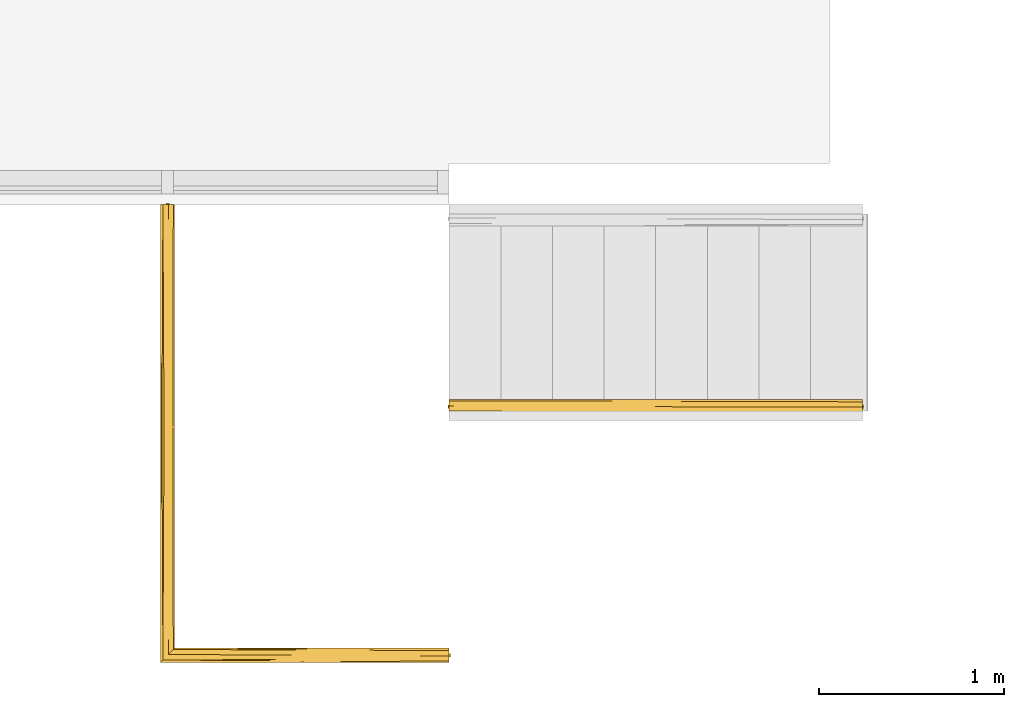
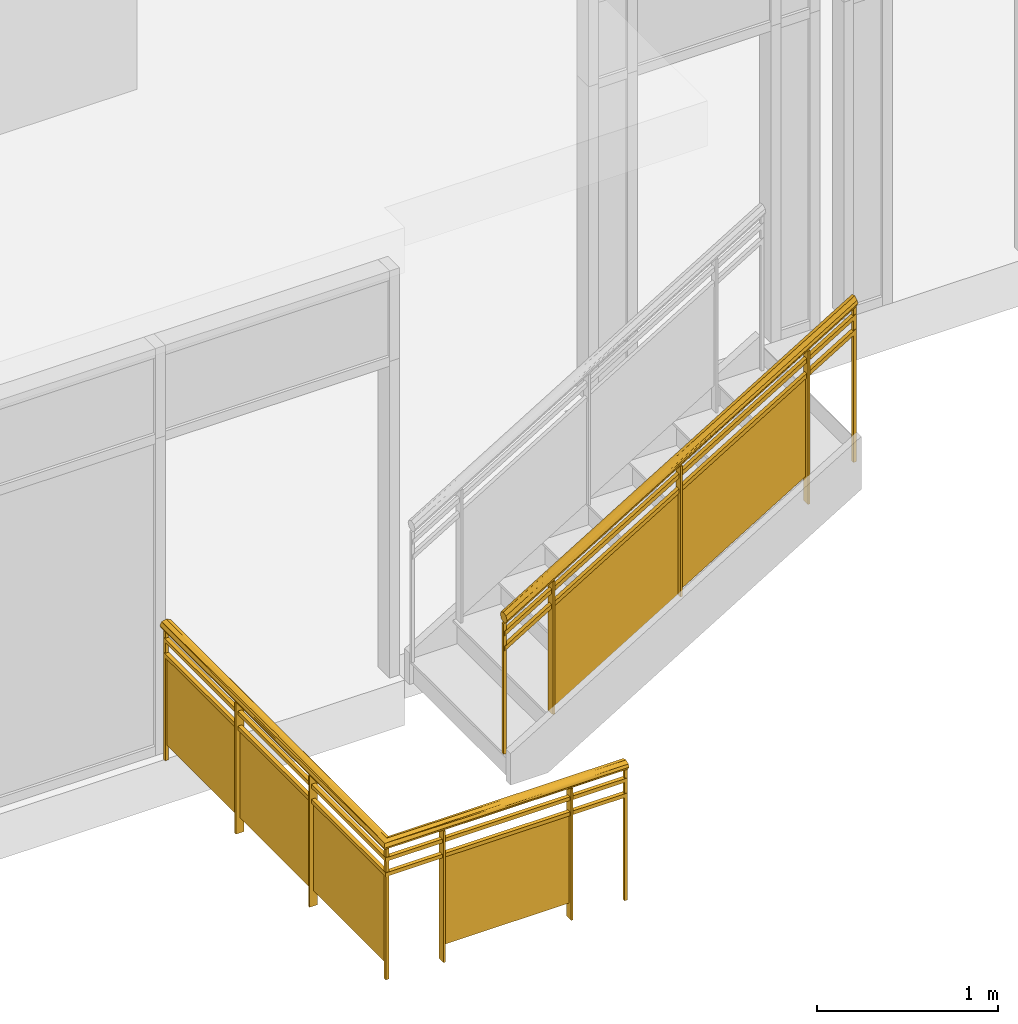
# One storey, part 8 of 11: 2 railings, 1 element without a shape of its own.
"""IFC2X3 building model written with IfcOpenShell, lengths in feet."""

from ifc_helpers import new_model, entity, si_unit, converted_unit, derived_unit, direction, frame, origin, place, context, subcontext, project, spatial, faceted_brep, material, material_list, element, aggregate, save


model = new_model("IFC2X3")

# Units and contexts
model_context = context("Model", 3, precision=0.0001, world=origin(), true_north=direction((6.12303176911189e-17, 1.0)))
body_context = subcontext(model_context, "Body", "Model", "MODEL_VIEW")
ifc_project = project(units=[converted_unit("LENGTHUNIT", "FOOT", entity("IfcRatioMeasure", 0.3048), si_unit("LENGTHUNIT", "METRE"), dimensions=[1, 0, 0, 0, 0, 0, 0]), converted_unit("AREAUNIT", "SQUARE FOOT", entity("IfcRatioMeasure", 0.09290304), si_unit("AREAUNIT", "SQUARE_METRE"), dimensions=[2, 0, 0, 0, 0, 0, 0]), converted_unit("VOLUMEUNIT", "CUBIC FOOT", entity("IfcRatioMeasure", 0.028316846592), si_unit("VOLUMEUNIT", "CUBIC_METRE"), dimensions=[3, 0, 0, 0, 0, 0, 0]), converted_unit("PLANEANGLEUNIT", "DEGREE", entity("IfcRatioMeasure", 0.0174532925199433), si_unit("PLANEANGLEUNIT", "RADIAN"), dimensions=[0, 0, 0, 0, 0, 0, 0]), si_unit("MASSUNIT", "GRAM", prefix="KILO"), derived_unit("MASSDENSITYUNIT", [(si_unit("MASSUNIT", "GRAM", prefix="KILO"), 1), (si_unit("LENGTHUNIT", "METRE"), -3)]), si_unit("TIMEUNIT", "SECOND"), si_unit("FREQUENCYUNIT", "HERTZ"), si_unit("THERMODYNAMICTEMPERATUREUNIT", "DEGREE_CELSIUS"), derived_unit("THERMALTRANSMITTANCEUNIT", [(si_unit("MASSUNIT", "GRAM", prefix="KILO"), 1), (si_unit("THERMODYNAMICTEMPERATUREUNIT", "KELVIN"), -1), (si_unit("TIMEUNIT", "SECOND"), -3)]), derived_unit("VOLUMETRICFLOWRATEUNIT", [(si_unit("LENGTHUNIT", "METRE"), 3), (si_unit("TIMEUNIT", "SECOND"), -1)]), si_unit("ELECTRICCURRENTUNIT", "AMPERE"), si_unit("ELECTRICVOLTAGEUNIT", "VOLT"), si_unit("POWERUNIT", "WATT"), si_unit("FORCEUNIT", "NEWTON"), si_unit("ILLUMINANCEUNIT", "LUX"), si_unit("LUMINOUSFLUXUNIT", "LUMEN"), si_unit("LUMINOUSINTENSITYUNIT", "CANDELA"), derived_unit("USERDEFINED", [(si_unit("MASSUNIT", "GRAM", prefix="KILO"), -1), (si_unit("LENGTHUNIT", "METRE"), -2), (si_unit("TIMEUNIT", "SECOND"), 3), (si_unit("LUMINOUSFLUXUNIT", "LUMEN"), 1)]), derived_unit("LINEARVELOCITYUNIT", [(si_unit("LENGTHUNIT", "METRE"), 1), (si_unit("TIMEUNIT", "SECOND"), -1)]), si_unit("PRESSUREUNIT", "PASCAL"), derived_unit("USERDEFINED", [(si_unit("LENGTHUNIT", "METRE"), -2), (si_unit("MASSUNIT", "GRAM", prefix="KILO"), 1), (si_unit("TIMEUNIT", "SECOND"), -2)])], contexts=[model_context])

# Site, building, storey
site_placement = place(None, origin())
site = spatial("IfcSite", under=ifc_project, at=site_placement, Name="Default", CompositionType="ELEMENT")
building_placement = place(site_placement, origin())
building = spatial("IfcBuilding", under=site, at=building_placement, CompositionType="ELEMENT")
storey_placement = place(building_placement, frame((0.0, 0.0, 50.0)))
storey = spatial("IfcBuildingStorey", under=building, at=storey_placement, Name="L 9", CompositionType="ELEMENT", Elevation=49.9999999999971)

# Railing
ifc_material_1 = material(Name="Glass")
ifc_material_2 = material(Name="alum - color")
ifc_material_list_1 = material_list([ifc_material_1, ifc_material_2])
railing_1_placement = place(storey_placement, frame((-51.4553966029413, -15.4672084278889, 0.0)))
element("IfcRailing", 1, at=railing_1_placement, inside=storey, material=ifc_material_list_1, Name="Railing:Glass Panel - Bottom Fill", ObjectType="Railing:Glass Panel - Bottom Fill", PredefinedType="NOTDEFINED", context=body_context, shape_type="Brep", body=[
    faceted_brep([(3.94273383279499, 0.0469004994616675, 2.90577041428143), (3.94273383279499, 0.213567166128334, 2.90577041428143), (3.94273383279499, 0.213567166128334, 0.0), (3.94273383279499, 0.0469004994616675, 0.0), (3.98440049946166, 0.0469004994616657, 2.90577041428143), (3.98440049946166, 0.0469004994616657, 0.0), (3.98440049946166, 0.213567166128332, 2.90577041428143), (3.98440049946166, 0.213567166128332, 0.0)], [[[0, 1, 2, 3]], [[4, 0, 3, 5]], [[6, 4, 5, 7]], [[1, 6, 7, 2]], [[1, 0, 4, 6]], [[3, 2, 7, 5]]]),
    faceted_brep([(1.29690049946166, 0.15167463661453, 0.333333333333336), (1.29690049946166, 0.15167463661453, 2.29166666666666), (3.96356716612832, 0.15167463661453, 2.29166666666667), (3.96356716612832, 0.15167463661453, 0.333333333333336), (1.29690049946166, 0.130841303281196, 0.333333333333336), (3.96356716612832, 0.130841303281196, 0.333333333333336), (3.96356716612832, 0.130841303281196, 2.29166666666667), (1.29690049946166, 0.130841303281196, 2.29166666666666)], [[[0, 1, 2, 3]], [[4, 5, 6, 7]], [[1, 0, 4, 7]], [[2, 1, 7, 6]], [[3, 2, 6, 5]], [[0, 3, 5, 4]]]),
    faceted_brep([(1.27606716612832, 0.0469004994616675, 2.90577041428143), (1.27606716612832, 0.213567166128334, 2.90577041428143), (1.27606716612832, 0.213567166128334, 0.0), (1.27606716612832, 0.0469004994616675, 0.0), (1.31773383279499, 0.0469004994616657, 2.90577041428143), (1.31773383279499, 0.0469004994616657, 0.0), (1.31773383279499, 0.213567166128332, 2.90577041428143), (1.31773383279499, 0.213567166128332, 0.0)], [[[0, 1, 2, 3]], [[4, 0, 3, 5]], [[6, 4, 5, 7]], [[1, 6, 7, 2]], [[1, 0, 4, 6]], [[3, 2, 7, 5]]]),
    faceted_brep([(0.15167463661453, 2.79690049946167, 0.333333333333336), (0.15167463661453, 2.79690049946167, 2.29166666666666), (0.15167463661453, 0.130233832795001, 2.29166666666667), (0.15167463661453, 0.130233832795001, 0.333333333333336), (0.130841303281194, 2.79690049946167, 0.333333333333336), (0.130841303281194, 0.130233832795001, 0.333333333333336), (0.130841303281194, 0.130233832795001, 2.29166666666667), (0.130841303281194, 2.79690049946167, 2.29166666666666)], [[[0, 1, 2, 3]], [[4, 5, 6, 7]], [[1, 0, 4, 7]], [[2, 1, 7, 6]], [[3, 2, 6, 5]], [[0, 3, 5, 4]]]),
    faceted_brep([(0.0469004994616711, 2.817733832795, 2.90577041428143), (0.213567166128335, 2.817733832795, 2.90577041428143), (0.213567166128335, 2.817733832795, 0.0), (0.0469004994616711, 2.817733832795, 0.0), (0.046900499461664, 2.77606716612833, 2.90577041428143), (0.046900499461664, 2.77606716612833, 0.0), (0.213567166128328, 2.77606716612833, 2.90577041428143), (0.213567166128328, 2.77606716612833, 0.0)], [[[0, 1, 2, 3]], [[4, 0, 3, 5]], [[6, 4, 5, 7]], [[1, 6, 7, 2]], [[1, 0, 4, 6]], [[3, 2, 7, 5]]]),
    faceted_brep([(0.15167463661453, 5.46356716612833, 0.333333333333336), (0.15167463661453, 5.46356716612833, 2.29166666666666), (0.15167463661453, 2.79690049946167, 2.29166666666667), (0.15167463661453, 2.79690049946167, 0.333333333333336), (0.130841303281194, 5.46356716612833, 0.333333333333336), (0.130841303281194, 2.79690049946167, 0.333333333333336), (0.130841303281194, 2.79690049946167, 2.29166666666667), (0.130841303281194, 5.46356716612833, 2.29166666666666)], [[[0, 1, 2, 3]], [[4, 5, 6, 7]], [[1, 0, 4, 7]], [[2, 1, 7, 6]], [[3, 2, 6, 5]], [[0, 3, 5, 4]]]),
    faceted_brep([(0.0469004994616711, 5.48440049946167, 2.90577041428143), (0.213567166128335, 5.48440049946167, 2.90577041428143), (0.213567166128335, 5.48440049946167, 0.0), (0.0469004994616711, 5.48440049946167, 0.0), (0.046900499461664, 5.442733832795, 2.90577041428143), (0.046900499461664, 5.442733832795, 0.0), (0.213567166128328, 5.442733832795, 2.90577041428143), (0.213567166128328, 5.442733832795, 0.0)], [[[0, 1, 2, 3]], [[4, 0, 3, 5]], [[6, 4, 5, 7]], [[1, 6, 7, 2]], [[1, 0, 4, 6]], [[3, 2, 7, 5]]]),
    faceted_brep([(0.15167463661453, 8.130233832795, 0.333333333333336), (0.15167463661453, 8.130233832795, 2.29166666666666), (0.15167463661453, 5.46356716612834, 2.29166666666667), (0.15167463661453, 5.46356716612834, 0.333333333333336), (0.130841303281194, 8.130233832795, 0.333333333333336), (0.130841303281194, 5.46356716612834, 0.333333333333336), (0.130841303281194, 5.46356716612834, 2.29166666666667), (0.130841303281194, 8.130233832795, 2.29166666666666)], [[[0, 1, 2, 3]], [[4, 5, 6, 7]], [[1, 0, 4, 7]], [[2, 1, 7, 6]], [[3, 2, 6, 5]], [[0, 3, 5, 4]]]),
    faceted_brep([(0.0989838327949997, 0.161483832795, 2.90577041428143), (0.161483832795, 0.161483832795, 2.90577041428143), (0.161483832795, 0.161483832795, 0.0), (0.0989838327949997, 0.161483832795, 0.0), (0.0989838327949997, 0.0989838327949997, 2.90577041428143), (0.0989838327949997, 0.0989838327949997, 0.0), (0.161483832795, 0.0989838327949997, 2.90577041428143), (0.161483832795, 0.0989838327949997, 0.0)], [[[0, 1, 2, 3]], [[4, 0, 3, 5]], [[6, 4, 5, 7]], [[1, 6, 7, 2]], [[1, 0, 4, 6]], [[3, 2, 7, 5]]]),
    faceted_brep([(5.08856716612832, 0.0989838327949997, 2.90577041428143), (5.08856716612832, 0.161483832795, 2.90577041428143), (5.08856716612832, 0.161483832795, 0.0), (5.08856716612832, 0.0989838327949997, 0.0), (5.15106716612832, 0.0989838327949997, 2.90577041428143), (5.15106716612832, 0.0989838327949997, 0.0), (5.15106716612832, 0.161483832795, 2.90577041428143), (5.15106716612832, 0.161483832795, 0.0)], [[[0, 1, 2, 3]], [[4, 0, 3, 5]], [[6, 4, 5, 7]], [[1, 6, 7, 2]], [[1, 0, 4, 6]], [[3, 2, 7, 5]]]),
    faceted_brep([(0.0989838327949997, 8.15106716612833, 2.90577041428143), (0.161483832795, 8.15106716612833, 2.90577041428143), (0.161483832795, 8.15106716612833, 0.0), (0.0989838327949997, 8.15106716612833, 0.0), (0.0989838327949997, 8.08856716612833, 2.90577041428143), (0.0989838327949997, 8.08856716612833, 0.0), (0.161483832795, 8.08856716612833, 2.90577041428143), (0.161483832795, 8.08856716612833, 0.0)], [[[0, 1, 2, 3]], [[4, 0, 3, 5]], [[6, 4, 5, 7]], [[1, 6, 7, 2]], [[1, 0, 4, 6]], [[3, 2, 7, 5]]]),
    faceted_brep([(0.0885671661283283, 8.130233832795, 2.70833333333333), (0.171900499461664, 8.130233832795, 2.70833333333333), (0.171900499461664, 8.130233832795, 2.625), (0.0885671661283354, 8.130233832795, 2.625), (0.0885671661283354, 0.0885671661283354, 2.70833333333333), (0.171900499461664, 0.171900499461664, 2.70833333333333), (0.171900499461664, 0.171900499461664, 2.625), (0.0885671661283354, 0.0885671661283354, 2.625), (5.13023383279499, 0.0885671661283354, 2.70833333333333), (5.13023383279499, 0.0885671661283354, 2.62499999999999), (5.13023383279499, 0.171900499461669, 2.625), (5.13023383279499, 0.171900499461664, 2.70833333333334)], [[[0, 1, 2, 3]], [[1, 0, 4, 5]], [[2, 1, 5, 6]], [[3, 2, 6, 7]], [[0, 3, 7, 4]], [[8, 9, 10, 11]], [[5, 4, 8, 11]], [[6, 5, 11, 10]], [[7, 6, 10, 9]], [[4, 7, 9, 8]]]),
    faceted_brep([(0.0885671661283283, 8.130233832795, 2.375), (0.171900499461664, 8.130233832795, 2.375), (0.171900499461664, 8.130233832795, 2.29166666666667), (0.0885671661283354, 8.130233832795, 2.29166666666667), (0.0885671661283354, 0.0885671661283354, 2.375), (0.171900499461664, 0.171900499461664, 2.375), (0.171900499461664, 0.171900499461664, 2.29166666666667), (0.0885671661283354, 0.0885671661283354, 2.29166666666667), (5.13023383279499, 0.0885671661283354, 2.375), (5.13023383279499, 0.0885671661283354, 2.29166666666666), (5.13023383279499, 0.171900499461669, 2.29166666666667), (5.13023383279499, 0.171900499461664, 2.37500000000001)], [[[0, 1, 2, 3]], [[1, 0, 4, 5]], [[2, 1, 5, 6]], [[3, 2, 6, 7]], [[0, 3, 7, 4]], [[8, 9, 10, 11]], [[5, 4, 8, 11]], [[6, 5, 11, 10]], [[7, 6, 10, 9]], [[4, 7, 9, 8]]]),
    faceted_brep([(0.117167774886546, 8.130233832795, 2.90676357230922), (0.0731372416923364, 8.130233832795, 2.92582935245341), (0.0291067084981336, 8.130233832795, 2.94489513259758), (0.0171702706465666, 8.130233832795, 2.97244756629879), (0.00523383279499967, 8.130233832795, 3.0), (0.0259131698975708, 8.130233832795, 3.03483491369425), (0.0465925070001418, 8.130233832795, 3.06966982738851), (0.094946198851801, 8.130233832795, 3.08145312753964), (0.143299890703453, 8.130233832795, 3.09323642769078), (0.187330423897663, 8.130233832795, 3.07417064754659), (0.231360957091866, 8.130233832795, 3.05510486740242), (0.243297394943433, 8.130233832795, 3.02755243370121), (0.255233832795, 8.130233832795, 3.0), (0.234554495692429, 8.130233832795, 2.96516508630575), (0.213875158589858, 8.130233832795, 2.9303301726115), (0.165521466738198, 8.130233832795, 2.91854687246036), (0.165521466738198, 0.165521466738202, 2.91854687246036), (0.117167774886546, 0.117167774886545, 2.90676357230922), (0.143299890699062, 4.14787766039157, 2.90676357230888), (0.0188580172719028, 4.07967027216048, 2.95743839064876), (0.0291067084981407, 0.0291067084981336, 2.94489513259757), (0.0171702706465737, 0.0171702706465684, 2.97244756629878), (0.0137391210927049, 0.0137391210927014, 2.98036756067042), (0.234554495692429, 0.23455449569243, 2.96516508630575), (0.213875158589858, 0.213875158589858, 2.9303301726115), (0.23130291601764, 4.17205446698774, 2.94483526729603), (0.00523383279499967, 0.00523383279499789, 3.0), (0.00523383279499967, 3.52235019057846, 3.0), (0.192733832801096, 4.17205450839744, 2.91881011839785), (0.0085814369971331, 4.56614973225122, 2.97844882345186), (0.00523383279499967, 3.57772891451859, 3.0), (0.0731372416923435, 0.0731372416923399, 2.92582935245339), (0.0914039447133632, 4.10168553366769, 2.91088800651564), (0.246600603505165, 4.18239410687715, 2.96576371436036), (0.0397450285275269, 4.07967026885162, 2.93532244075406), (0.255233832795, 4.61312962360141, 3.0), (0.255233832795, 4.55774796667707, 3.0), (0.255233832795, 0.255233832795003, 3.0), (0.0635502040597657, 4.29614994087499, 2.92070441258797), (0.241449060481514, 0.241449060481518, 2.97677917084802), (0.117167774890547, 4.13676685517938, 3.09323642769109), (0.24329739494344, 0.243297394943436, 3.0275524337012), (0.241575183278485, 4.18079739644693, 3.04261230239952), (0.23136095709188, 0.231360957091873, 3.05510486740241), (0.0259131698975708, 0.0259131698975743, 3.03483491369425), (0.0291067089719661, 4.08841313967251, 3.05510486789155), (0.0134595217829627, 4.07807343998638, 3.03344663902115), (0.0465925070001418, 0.0465925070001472, 3.0696698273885), (0.0675305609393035, 4.08841318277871, 3.08110167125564), (0.168659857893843, 4.13676686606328, 3.08921041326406), (0.221524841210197, 4.18079739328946, 3.06404030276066), (0.251826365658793, 3.78364768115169, 3.02174037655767), (0.0707693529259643, 0.0707693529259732, 3.07556147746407), (0.094946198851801, 0.094946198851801, 3.08145312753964), (0.187330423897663, 0.187330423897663, 3.07417064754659), (0.197226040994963, 4.20738820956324, 3.07914914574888), (0.244356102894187, 0.244356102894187, 3.02510865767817), (0.143299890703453, 0.143299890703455, 3.09323642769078), (0.119123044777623, 0.119123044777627, 3.08734477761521), (5.13023383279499, 0.0259131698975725, 2.96516508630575), (5.13023383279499, 0.0465925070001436, 2.93033017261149), (5.13023383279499, 0.094946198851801, 2.91854687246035), (5.13023383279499, 0.143299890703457, 2.90676357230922), (5.13023383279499, 0.187330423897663, 2.9258293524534), (5.13023383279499, 0.231360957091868, 2.94489513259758), (5.13023383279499, 0.243297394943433, 2.97244756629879), (5.13023383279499, 0.255233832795, 3.0), (5.13023383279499, 0.234554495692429, 3.03483491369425), (5.13023383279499, 0.213875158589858, 3.06966982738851), (5.13023383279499, 0.165521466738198, 3.08145312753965), (5.13023383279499, 0.117167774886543, 3.09323642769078), (5.13023383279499, 0.0731372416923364, 3.07417064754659), (5.13023383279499, 0.0291067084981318, 3.05510486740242), (5.13023383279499, 0.0171702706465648, 3.02755243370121), (5.13023383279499, 0.00523383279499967, 3.0), (2.9023952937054, 0.241609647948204, 2.95743839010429), (2.70037614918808, 0.222558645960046, 2.9367988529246), (2.9064516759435, 0.251872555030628, 2.97840545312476), (2.3629910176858, 0.255233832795, 3.0), (3.09254439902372, 0.255233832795, 3.0), (2.34978165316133, 0.19570759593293, 2.92013930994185), (2.77247653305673, 0.00523383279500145, 3.0), (2.39034776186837, 0.0180983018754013, 2.95857566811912), (2.60535897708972, 0.130792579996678, 2.90625093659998), (2.92509581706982, 0.164339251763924, 2.90980701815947), (2.34287893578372, 0.0959444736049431, 2.90984625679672), (2.56660659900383, 0.0376121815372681, 2.9370436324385), (2.88561839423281, 0.0639929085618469, 2.92049596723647), (2.29292314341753, 0.00523383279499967, 3.0), (2.60050159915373, 0.0564588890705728, 3.07568038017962), (2.25480502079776, 0.0307681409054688, 3.05678038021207), (2.90811221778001, 0.197520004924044, 3.07900875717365), (2.71495766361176, 0.223804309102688, 3.06216213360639), (2.62419605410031, 0.0145921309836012, 3.03559140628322), (2.71450553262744, 0.132589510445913, 3.09373335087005), (2.82485670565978, 0.0979297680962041, 3.09056524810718), (2.40596040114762, 0.242343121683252, 3.04146426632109), (2.30840830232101, 0.165863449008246, 3.0898609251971)], [[[0, 1, 2, 3, 4, 5, 6, 7, 8, 9, 10, 11, 12, 13, 14, 15]], [[16, 17, 18]], [[19, 20, 21, 22]], [[23, 24, 25]], [[22, 26, 27]], [[25, 14, 13]], [[15, 14, 28]], [[24, 16, 28]], [[29, 27, 30, 4]], [[29, 3, 19]], [[31, 32, 17]], [[0, 32, 1]], [[3, 2, 19]], [[25, 13, 33]], [[15, 18, 0]], [[2, 34, 19]], [[1, 34, 2]], [[29, 19, 22]], [[33, 12, 35, 36, 37]], [[20, 19, 34]], [[34, 31, 20]], [[38, 32, 31]], [[3, 29, 4]], [[27, 29, 22]], [[18, 15, 28]], [[24, 28, 25]], [[32, 0, 18]], [[16, 18, 28]], [[25, 33, 23]], [[14, 25, 28]], [[13, 12, 33]], [[18, 17, 32]], [[1, 32, 38]], [[33, 37, 39, 23]], [[38, 34, 1]], [[34, 38, 31]], [[40, 8, 7]], [[41, 42, 43]], [[44, 45, 46]], [[10, 42, 11]], [[46, 5, 4]], [[47, 48, 45]], [[40, 49, 8]], [[43, 42, 50]], [[41, 51, 42]], [[48, 47, 52, 53]], [[54, 55, 49]], [[10, 50, 42]], [[51, 41, 56, 37]], [[55, 9, 49]], [[48, 40, 7]], [[57, 54, 49]], [[51, 12, 11]], [[45, 6, 5]], [[43, 50, 54]], [[50, 10, 9]], [[51, 37, 36, 35, 12]], [[42, 51, 11]], [[57, 49, 40]], [[8, 49, 9]], [[6, 45, 48]], [[47, 45, 44]], [[45, 5, 46]], [[46, 4, 30, 27, 26]], [[6, 48, 7]], [[40, 53, 58, 57]], [[53, 40, 48]], [[55, 50, 9]], [[50, 55, 54]], [[44, 46, 26]], [[59, 60, 61, 62, 63, 64, 65, 66, 67, 68, 69, 70, 71, 72, 73, 74]], [[65, 64, 75]], [[76, 24, 23]], [[23, 77, 75]], [[76, 23, 75]], [[77, 78, 79, 66]], [[39, 37, 78]], [[63, 80, 76]], [[80, 16, 24]], [[81, 82, 59]], [[62, 83, 84]], [[83, 61, 85]], [[86, 60, 59]], [[24, 76, 80]], [[61, 83, 62]], [[76, 75, 64]], [[77, 23, 39]], [[76, 64, 63]], [[80, 63, 84]], [[16, 80, 84]], [[65, 75, 77]], [[65, 77, 66]], [[78, 77, 39]], [[85, 61, 87]], [[62, 84, 63]], [[17, 16, 83]], [[84, 83, 16]], [[60, 86, 87]], [[85, 17, 83]], [[85, 31, 17]], [[31, 85, 87]], [[20, 82, 21]], [[60, 87, 61]], [[20, 31, 86]], [[87, 86, 31]], [[59, 74, 81]], [[59, 82, 86]], [[21, 81, 88, 26, 22]], [[86, 82, 20]], [[21, 82, 81]], [[89, 90, 72]], [[91, 68, 92]], [[93, 73, 72]], [[70, 94, 95]], [[96, 56, 41, 43]], [[94, 97, 57]], [[94, 58, 95]], [[91, 69, 68]], [[97, 91, 54]], [[54, 91, 92]], [[56, 79, 78, 37]], [[43, 92, 96]], [[68, 67, 92]], [[96, 67, 79]], [[54, 92, 43]], [[66, 79, 67]], [[96, 92, 67]], [[56, 96, 79]], [[69, 91, 97]], [[70, 69, 94]], [[57, 97, 54]], [[97, 94, 69]], [[52, 47, 89]], [[52, 89, 95]], [[71, 95, 89]], [[95, 71, 70]], [[53, 52, 95, 58]], [[94, 57, 58]], [[89, 72, 71]], [[93, 44, 26]], [[88, 93, 26]], [[90, 89, 47]], [[90, 47, 44]], [[90, 93, 72]], [[90, 44, 93]], [[73, 88, 81, 74]], [[73, 93, 88]]]),
])

# Stair, railing
stair_placement = place(storey_placement, origin())
stair = element("IfcStair", 2, at=stair_placement, inside=storey, Name="Assembled Stair:Stair", ObjectType="Assembled Stair:7\" max riser 11\" tread", ShapeType="NOTDEFINED")
ifc_material_list_2 = material_list([ifc_material_1, ifc_material_2])
railing_2_placement = place(stair_placement, frame((-46.3459961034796, -11.0505417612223, 0.555555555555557)))
railing_2 = element("IfcRailing", 3, at=railing_2_placement, material=ifc_material_list_2, Name="Railing:Glass Panel - Bottom Fill", ObjectType="Railing:Glass Panel - Bottom Fill", PredefinedType="NOTDEFINED", context=body_context, shape_type="Brep", body=[
    faceted_brep([(6.33333333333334, 0.0469004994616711, 6.71557302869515), (6.33333333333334, 0.213567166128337, 6.71557302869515), (6.33333333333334, 0.213567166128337, 3.33333333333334), (6.33333333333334, 0.0469004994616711, 3.33333333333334), (6.37500000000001, 0.0469004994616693, 6.74082555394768), (6.37500000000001, 0.0469004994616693, 3.33333333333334), (6.37500000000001, 0.213567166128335, 6.74082555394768), (6.37500000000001, 0.213567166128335, 3.33333333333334)], [[[0, 1, 2, 3]], [[4, 0, 3, 5]], [[6, 4, 5, 7]], [[1, 6, 7, 2]], [[1, 0, 4, 6]], [[3, 2, 7, 5]]]),
    faceted_brep([(3.6875, 0.151674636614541, 2.30303030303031), (3.6875, 0.151674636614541, 4.50683388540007), (6.35416666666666, 0.151674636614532, 6.12299550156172), (6.35416666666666, 0.151674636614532, 3.91919191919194), (3.6875, 0.130841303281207, 2.30303030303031), (6.35416666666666, 0.130841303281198, 3.91919191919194), (6.35416666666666, 0.130841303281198, 6.12299550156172), (3.6875, 0.130841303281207, 4.50683388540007)], [[[0, 1, 2, 3]], [[4, 5, 6, 7]], [[1, 0, 4, 7]], [[2, 1, 7, 6]], [[3, 2, 6, 5]], [[0, 3, 5, 4]]]),
    faceted_brep([(3.66666666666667, 0.0469004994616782, 5.09941141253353), (3.66666666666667, 0.213567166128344, 5.09941141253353), (3.66666666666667, 0.213567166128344, 2.22222222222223), (3.66666666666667, 0.0469004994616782, 2.22222222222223), (3.70833333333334, 0.0469004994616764, 5.12466393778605), (3.70833333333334, 0.0469004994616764, 2.22222222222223), (3.70833333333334, 0.213567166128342, 5.12466393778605), (3.70833333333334, 0.213567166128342, 2.22222222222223)], [[[0, 1, 2, 3]], [[4, 0, 3, 5]], [[6, 4, 5, 7]], [[1, 6, 7, 2]], [[1, 0, 4, 6]], [[3, 2, 7, 5]]]),
    faceted_brep([(1.02083333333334, 0.151674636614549, 0.636363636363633), (1.02083333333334, 0.151674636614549, 2.89067226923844), (3.6875, 0.151674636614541, 4.50683388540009), (3.6875, 0.151674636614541, 2.25252525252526), (1.02083333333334, 0.130841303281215, 0.636363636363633), (3.6875, 0.130841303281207, 2.25252525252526), (3.6875, 0.130841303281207, 4.50683388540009), (1.02083333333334, 0.130841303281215, 2.89067226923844)], [[[0, 1, 2, 3]], [[4, 5, 6, 7]], [[1, 0, 4, 7]], [[2, 1, 7, 6]], [[3, 2, 6, 5]], [[0, 3, 5, 4]]]),
    faceted_brep([(1.0, 0.0469004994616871, 3.48324979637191), (1.0, 0.213567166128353, 3.48324979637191), (1.0, 0.213567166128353, 0.555555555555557), (1.0, 0.0469004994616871, 0.555555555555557), (1.04166666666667, 0.0469004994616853, 3.50850232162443), (1.04166666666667, 0.0469004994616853, 0.555555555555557), (1.04166666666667, 0.213567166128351, 3.50850232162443), (1.04166666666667, 0.213567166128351, 0.555555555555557)], [[[0, 1, 2, 3]], [[4, 0, 3, 5]], [[6, 4, 5, 7]], [[1, 6, 7, 2]], [[1, 0, 4, 6]], [[3, 2, 7, 5]]]),
    faceted_brep([(7.31250000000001, 0.0989838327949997, 7.3090073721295), (7.31250000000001, 0.161483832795, 7.3090073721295), (7.31250000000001, 0.161483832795, 3.8888888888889), (7.31250000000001, 0.0989838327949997, 3.8888888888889), (7.37500000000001, 0.0989838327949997, 7.34688616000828), (7.37500000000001, 0.0989838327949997, 3.8888888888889), (7.37500000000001, 0.161483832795, 7.34688616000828), (7.37500000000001, 0.161483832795, 3.8888888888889)], [[[0, 1, 2, 3]], [[4, 0, 3, 5]], [[6, 4, 5, 7]], [[1, 6, 7, 2]], [[1, 0, 4, 6]], [[3, 2, 7, 5]]]),
    faceted_brep([(0.0, 0.0989838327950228, 2.8771891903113), (0.0, 0.161483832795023, 2.8771891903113), (0.0, 0.161483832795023, 0.0), (0.0, 0.0989838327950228, 0.0), (0.0625, 0.0989838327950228, 2.91506797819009), (0.0625, 0.0989838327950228, 0.0), (0.0625, 0.161483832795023, 2.91506797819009), (0.0625, 0.161483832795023, 0.0)], [[[0, 1, 2, 3]], [[4, 0, 3, 5]], [[6, 4, 5, 7]], [[1, 6, 7, 2]], [[1, 0, 4, 6]], [[3, 2, 7, 5]]]),
    faceted_brep([(0.0208333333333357, 0.0885671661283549, 2.71538833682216), (0.0208333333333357, 0.171900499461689, 2.71538833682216), (0.0208333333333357, 0.171900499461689, 2.61794499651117), (0.0208333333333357, 0.0885671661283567, 2.61794499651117), (7.35416666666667, 0.0885671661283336, 7.15983278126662), (7.35416666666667, 0.0885671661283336, 7.06238944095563), (7.35416666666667, 0.171900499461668, 7.06238944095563), (7.35416666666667, 0.171900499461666, 7.15983278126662)], [[[0, 1, 2, 3]], [[4, 5, 6, 7]], [[1, 0, 4, 7]], [[2, 1, 7, 6]], [[3, 2, 6, 5]], [[0, 3, 5, 4]]]),
    faceted_brep([(0.0208333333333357, 0.0885671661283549, 2.38205500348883), (0.0208333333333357, 0.171900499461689, 2.38205500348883), (0.0208333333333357, 0.171900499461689, 2.28461166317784), (0.0208333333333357, 0.0885671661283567, 2.28461166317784), (7.35416666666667, 0.0885671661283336, 6.82649944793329), (7.35416666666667, 0.0885671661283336, 6.7290561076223), (7.35416666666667, 0.171900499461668, 6.7290561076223), (7.35416666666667, 0.171900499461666, 6.82649944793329)], [[[0, 1, 2, 3]], [[4, 5, 6, 7]], [[1, 0, 4, 7]], [[2, 1, 7, 6]], [[3, 2, 6, 5]], [[0, 3, 5, 4]]]),
    faceted_brep([(0.0208333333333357, 0.0465925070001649, 3.08146632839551), (0.0208333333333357, 0.0949461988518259, 3.09524477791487), (0.0208333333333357, 0.14329989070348, 3.10902322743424), (0.0208333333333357, 0.187330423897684, 3.08672922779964), (0.0208333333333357, 0.231360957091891, 3.06443522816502), (0.0208333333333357, 0.243297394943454, 3.03221761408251), (0.0208333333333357, 0.255233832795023, 3.0), (0.0208333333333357, 0.23455449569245, 2.95926683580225), (0.0208333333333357, 0.213875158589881, 2.91853367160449), (0.0208333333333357, 0.165521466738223, 2.90475522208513), (0.0208333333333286, 0.141344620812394, 2.89786599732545), (0.0208333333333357, 0.117167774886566, 2.89097677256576), (0.0208333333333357, 0.0731372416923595, 2.91327077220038), (0.0208333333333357, 0.0291067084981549, 2.93556477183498), (0.0208333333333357, 0.0171702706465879, 2.96778238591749), (0.0208333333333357, 0.00523383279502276, 3.0), (0.0208333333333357, 0.0259131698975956, 3.04073316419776), (7.35416666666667, 0.0259131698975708, 7.4037112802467), (7.35416666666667, 0.0465925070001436, 7.36297811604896), (7.35416666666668, 0.094946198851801, 7.34919966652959), (7.35416666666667, 0.143299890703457, 7.33542121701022), (7.35416666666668, 0.187330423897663, 7.35771521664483), (7.35416666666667, 0.231360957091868, 7.38000921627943), (7.35416666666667, 0.243297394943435, 7.41222683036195), (7.35416666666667, 0.255233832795, 7.44444444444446), (7.35416666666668, 0.244378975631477, 7.46582582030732), (7.35416666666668, 0.234554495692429, 7.48517760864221), (7.35416666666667, 0.213875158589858, 7.52591077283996), (7.35416666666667, 0.1655214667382, 7.53968922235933), (7.35416666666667, 0.117167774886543, 7.55346767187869), (7.35416666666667, 0.0951525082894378, 7.54232067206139), (7.35416666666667, 0.0731372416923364, 7.53117367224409), (7.35416666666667, 0.0291067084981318, 7.50887967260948), (7.35416666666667, 0.0171702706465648, 7.47666205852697), (7.35416666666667, 0.00523383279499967, 7.44444444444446), (3.70029054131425, 0.246755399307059, 5.19028869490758), (3.87247818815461, 0.177511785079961, 5.23284993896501), (3.91578387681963, 0.207600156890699, 5.27447257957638), (3.0787150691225, 0.231313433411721, 4.78876910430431), (3.15949317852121, 0.255233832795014, 4.90221808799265), (4.21550890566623, 0.25523383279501, 5.54222761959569), (4.04114830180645, 0.0629732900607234, 5.34415364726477), (3.22585875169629, 0.0946029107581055, 4.83736380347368), (3.68929300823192, 0.130201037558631, 5.11368513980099), (3.72718018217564, 0.0367721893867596, 5.17347577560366), (3.44651497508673, 0.0177333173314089, 5.02838773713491), (3.15950087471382, 0.00523383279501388, 4.9022227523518), (3.54783177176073, 0.0115093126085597, 5.17187272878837), (3.3304459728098, 0.0259810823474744, 5.06630868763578), (4.14481111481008, 0.0490518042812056, 5.5827382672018), (3.68590222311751, 0.079440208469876, 5.32141906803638), (3.1914919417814, 0.251785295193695, 4.94718335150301), (3.5434095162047, 0.127144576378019, 5.24448493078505), (3.42716626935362, 0.161623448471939, 5.17055526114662), (3.59902271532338, 0.221853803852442, 5.24317359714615), (3.37926588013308, 0.241652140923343, 5.08510860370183), (4.26044448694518, 0.193327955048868, 5.66409552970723)], [[[0, 1, 2, 3, 4, 5, 6, 7, 8, 9, 10, 11, 12, 13, 14, 15, 16]], [[17, 18, 19, 20, 21, 22, 23, 24, 25, 26, 27, 28, 29, 30, 31, 32, 33, 34]], [[35, 7, 6]], [[9, 8, 36, 10]], [[22, 37, 38]], [[37, 36, 8]], [[21, 36, 37]], [[35, 6, 39, 40]], [[41, 42, 19]], [[38, 7, 35]], [[19, 42, 43]], [[44, 41, 18]], [[13, 45, 14]], [[8, 38, 37]], [[44, 12, 41]], [[38, 8, 7]], [[11, 43, 42]], [[17, 34, 46]], [[35, 23, 22]], [[11, 10, 43]], [[40, 24, 23]], [[21, 37, 22]], [[36, 21, 20]], [[36, 20, 43]], [[36, 43, 10]], [[43, 20, 19]], [[42, 12, 11]], [[12, 42, 41]], [[13, 12, 44]], [[18, 41, 19]], [[46, 15, 14]], [[44, 18, 17]], [[17, 45, 44]], [[38, 35, 22]], [[45, 17, 46]], [[23, 35, 40]], [[44, 45, 13]], [[14, 45, 46]], [[16, 47, 48]], [[0, 48, 49]], [[49, 31, 50]], [[31, 30, 50]], [[51, 26, 25]], [[2, 52, 53]], [[54, 27, 26]], [[54, 55, 4]], [[26, 51, 55]], [[47, 16, 15]], [[54, 26, 55]], [[5, 4, 55]], [[25, 24, 40, 39]], [[56, 54, 3]], [[56, 3, 53]], [[50, 0, 49]], [[27, 54, 56]], [[51, 39, 6]], [[53, 52, 28]], [[54, 4, 3]], [[56, 28, 27]], [[28, 56, 53]], [[5, 55, 51]], [[29, 28, 52]], [[2, 53, 3]], [[30, 29, 52]], [[52, 2, 1]], [[1, 0, 50]], [[52, 50, 30]], [[1, 50, 52]], [[49, 32, 31]], [[32, 49, 48]], [[33, 48, 47]], [[16, 48, 0]], [[46, 34, 47, 15]], [[33, 32, 48]], [[33, 47, 34]], [[5, 51, 6]], [[39, 51, 25]]]),
])
aggregate(stair, [railing_2])

save(model, "model.ifc")
